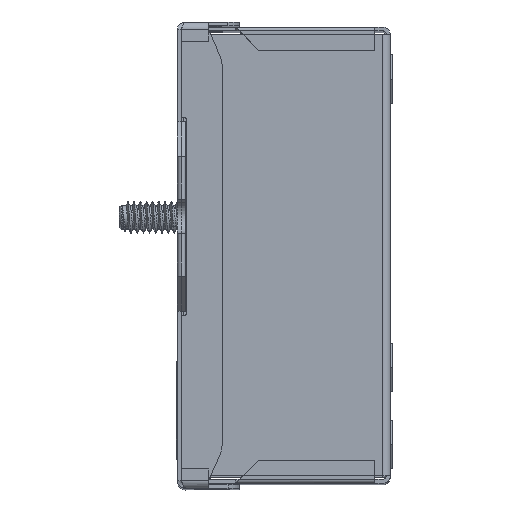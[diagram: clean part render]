
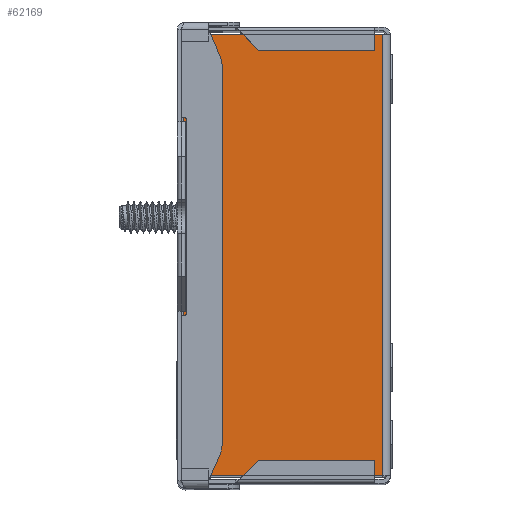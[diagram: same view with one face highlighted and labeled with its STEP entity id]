
A CAD part, top view. The second image highlights one B-rep face of the part: STEP entity #62169.
In plain terms, the highlighted planar face has unit normal (0, 0, 1) as drawn and (-1, 0, 0) by its records, which use the part's own axes.
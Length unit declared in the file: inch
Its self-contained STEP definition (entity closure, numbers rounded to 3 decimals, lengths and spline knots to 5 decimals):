
#59053=DIRECTION('',(0.,-1.,0.));
#59054=VECTOR('',#59053,0.07874);
#59055=CARTESIAN_POINT('',(-2.11614,-1.04331,
-0.11811));
#59056=LINE('',#59055,#59054);
#59075=DIRECTION('',(0.,-0.707,0.707));
#59076=VECTOR('',#59075,0.11136);
#59077=CARTESIAN_POINT('',(-2.11614,1.12205,
-0.7874));
#59078=LINE('',#59077,#59076);
#59082=DIRECTION('',(0.,0.,1.));
#59083=VECTOR('',#59082,0.59055);
#59084=CARTESIAN_POINT('',(-2.11614,1.04331,
-0.70866));
#59085=LINE('',#59084,#59083);
#59089=DIRECTION('',(0.,1.,0.));
#59090=VECTOR('',#59089,0.07874);
#59091=CARTESIAN_POINT('',(-2.11614,1.04331,
-0.11811));
#59092=LINE('',#59091,#59090);
#59096=DIRECTION('',(0.,0.,-1.));
#59097=VECTOR('',#59096,0.59055);
#59098=CARTESIAN_POINT('',(-2.11614,-1.04331,
-0.11811));
#59099=LINE('',#59098,#59097);
#59103=DIRECTION('',(0.,-0.707,-0.707));
#59104=VECTOR('',#59103,0.11136);
#59105=CARTESIAN_POINT('',(-2.11614,-1.04331,
-0.70866));
#59106=LINE('',#59105,#59104);
#59110=DIRECTION('',(0.,0.,-1.));
#59111=VECTOR('',#59110,0.30315);
#59112=CARTESIAN_POINT('',(-2.11614,-1.12205,
-0.7874));
#59113=LINE('',#59112,#59111);
#59117=DIRECTION('',(0.,-1.,0.));
#59118=VECTOR('',#59117,2.24409);
#59119=CARTESIAN_POINT('',(-2.11614,1.12205,
-1.09055));
#59120=LINE('',#59119,#59118);
#59138=DIRECTION('',(0.,0.,1.));
#59139=VECTOR('',#59138,0.03937);
#59140=CARTESIAN_POINT('',(-2.11614,-1.12205,
-0.11811));
#59141=LINE('',#59140,#59139);
#60818=DIRECTION('',(0.,0.,-1.));
#60819=VECTOR('',#60818,0.03937);
#60820=CARTESIAN_POINT('',(-2.11614,1.12205,
-0.07874));
#60821=LINE('',#60820,#60819);
#60832=DIRECTION('',(0.,0.,-1.));
#60833=VECTOR('',#60832,0.30315);
#60834=CARTESIAN_POINT('',(-2.11614,1.12205,
-0.7874));
#60835=LINE('',#60834,#60833);
#61100=DIRECTION('',(0.,1.,0.));
#61101=VECTOR('',#61100,2.24409);
#61102=CARTESIAN_POINT('',(-2.11614,-1.12205,
-0.07874));
#61103=LINE('',#61102,#61101);
#61667=CARTESIAN_POINT('',(-2.11614,-1.04331,
-0.11811));
#61668=CARTESIAN_POINT('',(-2.11614,-1.12205,
-0.11811));
#61669=VERTEX_POINT('',#61667);
#61670=VERTEX_POINT('',#61668);
#61679=CARTESIAN_POINT('',(-2.11614,1.12205,
-1.09055));
#61680=CARTESIAN_POINT('',(-2.11614,-1.12205,
-1.09055));
#61681=VERTEX_POINT('',#61679);
#61682=VERTEX_POINT('',#61680);
#61683=CARTESIAN_POINT('',(-2.11614,1.12205,
-0.7874));
#61684=VERTEX_POINT('',#61683);
#61685=CARTESIAN_POINT('',(-2.11614,1.04331,
-0.70866));
#61686=VERTEX_POINT('',#61685);
#61687=CARTESIAN_POINT('',(-2.11614,1.04331,
-0.11811));
#61688=VERTEX_POINT('',#61687);
#61689=CARTESIAN_POINT('',(-2.11614,1.12205,
-0.11811));
#61690=VERTEX_POINT('',#61689);
#61691=CARTESIAN_POINT('',(-2.11614,1.12205,
-0.07874));
#61692=VERTEX_POINT('',#61691);
#61693=CARTESIAN_POINT('',(-2.11614,-1.12205,
-0.07874));
#61694=VERTEX_POINT('',#61693);
#61695=CARTESIAN_POINT('',(-2.11614,-1.04331,
-0.70866));
#61696=VERTEX_POINT('',#61695);
#61697=CARTESIAN_POINT('',(-2.11614,-1.12205,
-0.7874));
#61698=VERTEX_POINT('',#61697);
#62139=CARTESIAN_POINT('',(-2.11614,-1.14293,
-0.11298));
#62140=DIRECTION('',(-1.,0.,0.));
#62141=DIRECTION('',(0.,-1.,0.));
#62142=AXIS2_PLACEMENT_3D('',#62139,#62140,#62141);
#62143=PLANE('',#62142);
#62145=ORIENTED_EDGE('',*,*,#62144,.F.);
#62147=ORIENTED_EDGE('',*,*,#62146,.F.);
#62149=ORIENTED_EDGE('',*,*,#62148,.T.);
#62151=ORIENTED_EDGE('',*,*,#62150,.T.);
#62153=ORIENTED_EDGE('',*,*,#62152,.T.);
#62155=ORIENTED_EDGE('',*,*,#62154,.F.);
#62157=ORIENTED_EDGE('',*,*,#62156,.F.);
#62159=ORIENTED_EDGE('',*,*,#62158,.F.);
#62160=ORIENTED_EDGE('',*,*,#62117,.F.);
#62162=ORIENTED_EDGE('',*,*,#62161,.T.);
#62164=ORIENTED_EDGE('',*,*,#62163,.T.);
#62166=ORIENTED_EDGE('',*,*,#62165,.T.);
#62167=EDGE_LOOP('',(#62145,#62147,#62149,#62151,#62153,#62155,#62157,#62159,
#62160,#62162,#62164,#62166));
#62168=FACE_OUTER_BOUND('',#62167,.F.);
#62169=ADVANCED_FACE('',(#62168),#62143,.T.);
#62117=EDGE_CURVE('',#61669,#61670,#59056,.T.);
#62144=EDGE_CURVE('',#61681,#61682,#59120,.T.);
#62146=EDGE_CURVE('',#61684,#61681,#60835,.T.);
#62148=EDGE_CURVE('',#61684,#61686,#59078,.T.);
#62150=EDGE_CURVE('',#61686,#61688,#59085,.T.);
#62152=EDGE_CURVE('',#61688,#61690,#59092,.T.);
#62154=EDGE_CURVE('',#61692,#61690,#60821,.T.);
#62156=EDGE_CURVE('',#61694,#61692,#61103,.T.);
#62158=EDGE_CURVE('',#61670,#61694,#59141,.T.);
#62161=EDGE_CURVE('',#61669,#61696,#59099,.T.);
#62163=EDGE_CURVE('',#61696,#61698,#59106,.T.);
#62165=EDGE_CURVE('',#61698,#61682,#59113,.T.);
